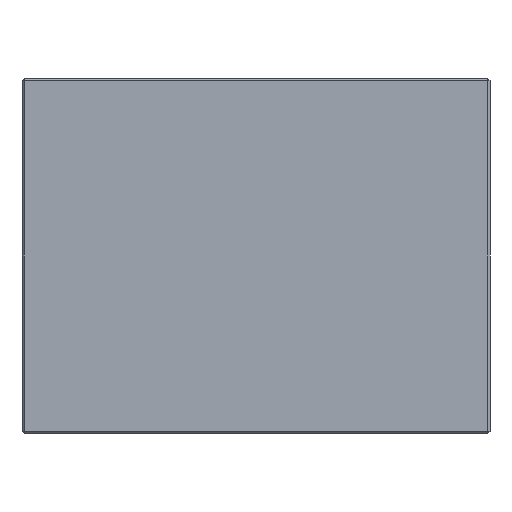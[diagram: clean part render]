
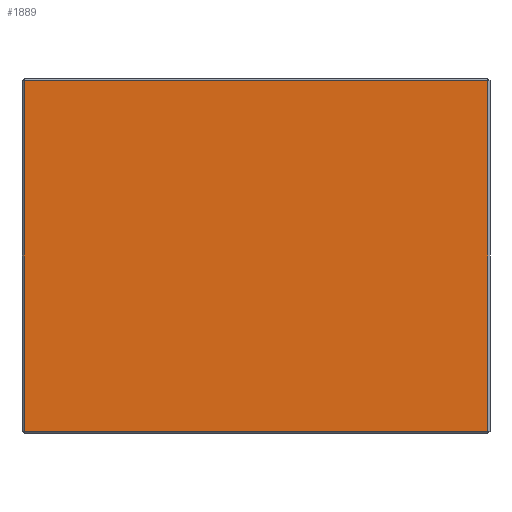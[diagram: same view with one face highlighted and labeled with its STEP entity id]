
A CAD part, left-side view. The second image highlights one B-rep face of the part: STEP entity #1889.
In plain terms, the highlighted planar face has unit normal (-1, 0, 0).
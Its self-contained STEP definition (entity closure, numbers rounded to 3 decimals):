
#35 = ORIENTED_EDGE ( 'NONE', *, *, #964, .T. ) ;
#137 = VECTOR ( 'NONE', #1709, 1000. ) ;
#161 = EDGE_CURVE ( 'NONE', #1356, #1442, #1831, .T. ) ;
#178 = DIRECTION ( 'NONE',  ( 0., 0., 1. ) ) ;
#217 = VECTOR ( 'NONE', #178, 1000. ) ;
#317 = FACE_OUTER_BOUND ( 'NONE', #827, .T. ) ;
#354 = VECTOR ( 'NONE', #2198, 1000. ) ;
#479 = CARTESIAN_POINT ( 'NONE',  ( -171.5, 47.75, 18.25 ) ) ;
#682 = DIRECTION ( 'NONE',  ( 0., 0., -1. ) ) ;
#689 = AXIS2_PLACEMENT_3D ( 'NONE', #1060, #1943, #1801 ) ;
#827 = EDGE_LOOP ( 'NONE', ( #1971, #35, #1276, #1471 ) ) ;
#871 = PLANE ( 'NONE',  #689 ) ;
#881 = LINE ( 'NONE', #1825, #354 ) ;
#950 = CARTESIAN_POINT ( 'NONE',  ( -171.5, 48., 18. ) ) ;
#964 = EDGE_CURVE ( 'NONE', #2281, #2079, #2359, .T. ) ;
#1060 = CARTESIAN_POINT ( 'NONE',  ( -171.5, 0., 18.25 ) ) ;
#1108 = EDGE_CURVE ( 'NONE', #1442, #2281, #1139, .T. ) ;
#1139 = LINE ( 'NONE', #950, #137 ) ;
#1276 = ORIENTED_EDGE ( 'NONE', *, *, #1965, .T. ) ;
#1356 = VERTEX_POINT ( 'NONE', #1503 ) ;
#1442 = VERTEX_POINT ( 'NONE', #2241 ) ;
#1466 = CARTESIAN_POINT ( 'NONE',  ( -171.5, 0.25, 18.25 ) ) ;
#1471 = ORIENTED_EDGE ( 'NONE', *, *, #161, .T. ) ;
#1503 = CARTESIAN_POINT ( 'NONE',  ( -171.5, 0.25, -18. ) ) ;
#1600 = CARTESIAN_POINT ( 'NONE',  ( -171.5, 47.75, 18. ) ) ;
#1709 = DIRECTION ( 'NONE',  ( 0., 1., 0. ) ) ;
#1801 = DIRECTION ( 'NONE',  ( 0., 0., -1. ) ) ;
#1811 = VECTOR ( 'NONE', #682, 1000. ) ;
#1825 = CARTESIAN_POINT ( 'NONE',  ( -171.5, 0., -18. ) ) ;
#1831 = LINE ( 'NONE', #1466, #217 ) ;
#1889 = ADVANCED_FACE ( 'NONE', ( #317 ), #871, .F. ) ;
#1943 = DIRECTION ( 'NONE',  ( 1., 0., 0. ) ) ;
#1965 = EDGE_CURVE ( 'NONE', #2079, #1356, #881, .T. ) ;
#1971 = ORIENTED_EDGE ( 'NONE', *, *, #1108, .T. ) ;
#2079 = VERTEX_POINT ( 'NONE', #2208 ) ;
#2198 = DIRECTION ( 'NONE',  ( 0., -1., 0. ) ) ;
#2208 = CARTESIAN_POINT ( 'NONE',  ( -171.5, 47.75, -18. ) ) ;
#2241 = CARTESIAN_POINT ( 'NONE',  ( -171.5, 0.25, 18. ) ) ;
#2281 = VERTEX_POINT ( 'NONE', #1600 ) ;
#2359 = LINE ( 'NONE', #479, #1811 ) ;
